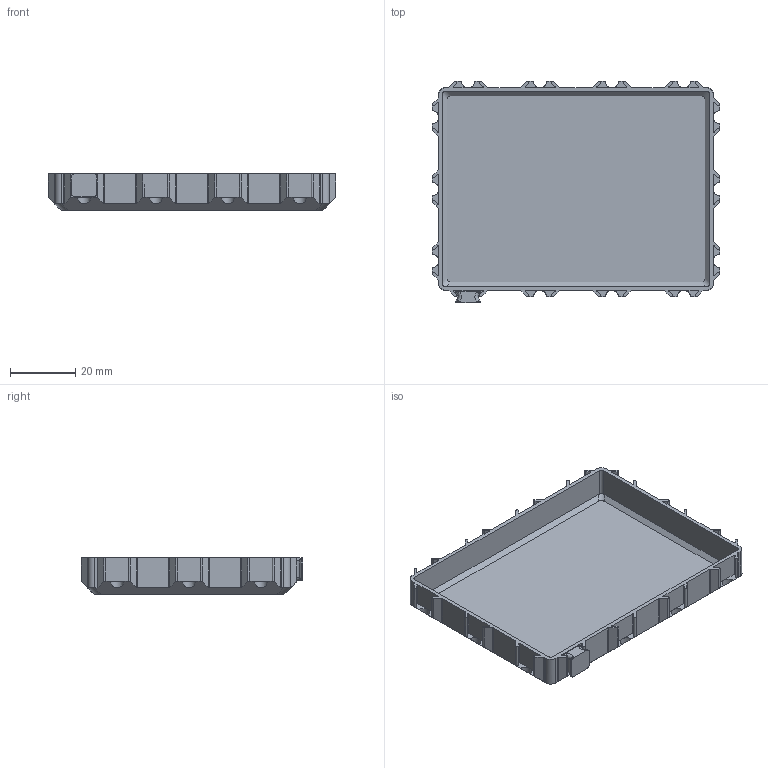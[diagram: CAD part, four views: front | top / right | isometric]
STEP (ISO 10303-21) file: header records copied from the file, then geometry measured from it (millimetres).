
FILE_DESCRIPTION(/* description */ (''),/* implementation_level */ '2;1');
FILE_NAME(/* name */ 'BOX_x04_y03_z010_tx0_ty0.stp',/* time_stamp */ '2024-02-16T08:36:30+01:00',/* author */ ('ott'),/* organization */ (''),/* preprocessor_version */ 'ST-DEVELOPER v19.2',/* originating_system */ 'Autodesk Inventor 2023',/* authorisation */ '');
FILE_SCHEMA (('AUTOMOTIVE_DESIGN { 1 0 10303 214 3 1 1 }'));
Length unit declared in the file: millimetre
Products named in the file (1): BOX_x04_y03_z010_tx0_ty0
Bounding box: 88 x 67.8 x 11.2 mm (x, y, z)
Volume: 10148.4 mm3; surface area: 17250.9 mm2
Topology: 2 solids, 2 shells, 263 faces, 746 edges, 488 vertices
Faces by surface type: plane 143, cylinder 116, torus 4
Entity records: 8980 total; most frequent: CARTESIAN_POINT 1590, DIRECTION 1540, ORIENTED_EDGE 1492, EDGE_CURVE 746, AXIS2_PLACEMENT_3D 538, VERTEX_POINT 488, LINE 464, VECTOR 464
